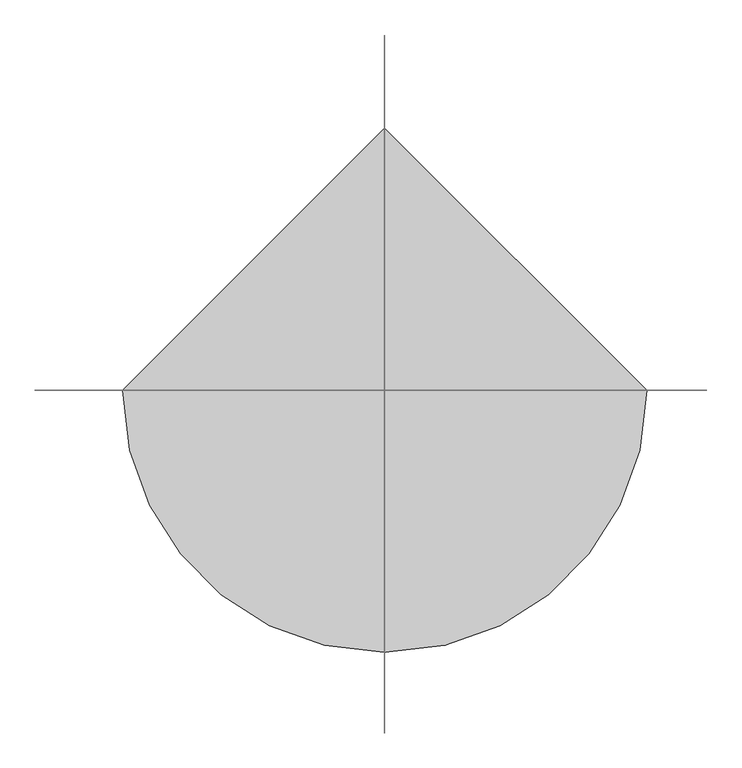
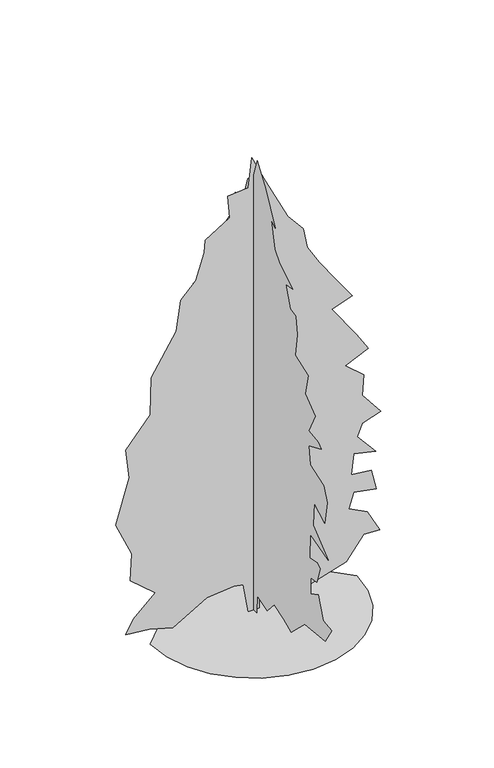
"""IFC4 building model written with IfcOpenShell, lengths in millimetres: geographic element geometry, 木 - 針葉樹 : カナダツガ - 7.6 メートル."""

from ifc_helpers import new_model, si_unit, origin, place, context, project, spatial, triangles, source, transform, mapped, element, save


def geographic_element_bd6ab4d7(model_context):
    return source(origin(), model_context, "Body", "Tessellation", [
        triangles([(-1640.4364975, 0.0, 4.66e-05), (-1597.0634182, -375.923493, 4.66e-05), (-1473.5381092, -721.1506039, 4.66e-05), (-1279.7509552, -1025.7886951, 4.66e-05), (-1025.5920502, -1279.9476002, 4.66e-05), (-720.9539589, -1473.7347542, 4.66e-05), (-375.7268117, -1597.2600632, 4.66e-05), (0.1967428, -1640.6331425, 4.66e-05), (376.1201743, -1597.2600632, 4.66e-05), (721.3472488, -1473.7347542, 4.66e-05), (1025.9853401, -1279.9476002, 4.66e-05), (1280.1442451, -1025.7886951, 4.66e-05), (1473.9313992, -721.1506039, 4.66e-05), (1597.4567081, -375.923493, 4.66e-05), (1640.8297874, 0.0001434, 4.66e-05), (0.1964559, 1640.6331425, 4.66e-05), (-86.8777094, 3.8e-06, 7.6e-06), (-167.301089, -2.14e-05, 482.538715), (-314.7444875, -1.66e-05, 509.3464173), (-747.6020416, 5e-06, 465.0359316), (-1286.1882076, 4.75e-05, 146.6033426), (-1655.1297867, 5.72e-05, 254.6732087), (-2030.4376923, 7.12e-05, 294.8847804), (-1909.8030499, 5.31e-05, 509.3464173), (-1561.3028103, 1.87e-05, 831.0388819), (-1963.4185272, 1.55e-05, 1179.5391214), (-1936.6107159, -1.2e-05, 1621.8687355), (-2191.283979, -3.44e-05, 2184.8305939), (-1976.8223602, -8.7e-05, 2908.6436806), (-2030.4376923, -0.0001134, 3391.1671349), (-1641.7259537, -0.0001575, 3846.9134445), (-1628.3221207, -0.0001949, 4463.4755196), (-1226.2065491, -0.0002508, 5106.8656082), (-1159.1872387, -0.0002833, 5602.8155685), (-917.9178812, -0.0003082, 5844.0903763), (-783.8794058, -0.0003396, 6273.0083817), (-770.4755001, -0.0003522, 6474.0786667), (-383.1925261, -0.0003838, 6719.7357651), (-408.5714275, -0.0004048, 7090.6410324), (-86.8774551, -0.0004204, 7117.4434662), (-33.2635628, -0.0004515, 7599.9925003), (181.1998591, -0.0004337, 7144.2714798), (543.1046765, -0.0004064, 6420.4482193), (784.3739977, -0.0003994, 6125.568544), (851.3932354, -0.0003823, 5790.4593475), (1039.0471882, -0.0003714, 5468.7772385), (1293.7204514, -0.0003609, 5106.8656082), (1561.7975475, -0.0003503, 4731.5524704), (1240.104974, -0.000329, 4610.9406464), (1628.8167126, -0.0003133, 4061.359948), (1816.4706654, -0.0003031, 3753.0790558), (1454.5665928, -0.0002777, 3592.2377106), (1749.4515003, -0.0002754, 3337.5619766), (1722.643689, -0.0002543, 3002.47836), (2017.5284512, -0.0002448, 2627.1655128), (1722.643689, -0.0002263, 2533.3308334), (1642.2205456, -0.0002108, 2332.2730476), (1937.1053078, -0.0002029, 1983.7728081), (1588.6052135, -0.0001925, 2064.1959515), (1548.3935692, -0.0001707, 1729.0995449), (1870.0861427, -0.0001824, 1688.8880459), (1950.5092861, -0.0001659, 1353.7891685), (1588.6052135, -0.0001541, 1420.8084789), (1508.1820702, -0.0001354, 1166.1352158), (1803.0668324, -0.0001395, 1018.6928347), (2004.1246181, -0.0001259, 643.3849291), (1749.4515003, -0.0001156, 656.7888348), (1467.9705711, -8.17e-05, 294.8847804), (905.0086401, -4.67e-05, 120.6346787), (462.6815695, -3.7e-05, 281.480911), (87.3723831, -3.34e-05, 495.9425843), (87.3723831, -3.8e-06, 0.0), (0.1966752, 91.1788822, 5.33e-05), (0.1966901, 158.1984106, 402.1156079), (0.1967037, 426.2759791, 455.7310126), (0.1967059, 546.9106579, 348.5001669), (0.1967247, 1029.4493729, 254.6732087), (0.1967355, 1324.3341351, 174.2503378), (0.1967539, 1726.4497066, 187.6542071), (0.1967742, 2021.3344688, 428.9233103), (0.1967896, 2222.3922546, 643.3849291), (0.1967734, 1860.4883274, 643.3849291), (0.1967696, 1579.0073982, 938.2697639), (0.1967896, 1900.6998264, 1125.9261875), (0.1968028, 2115.1614452, 1246.5608299), (0.1967954, 1780.065184, 1501.2340931), (0.1968128, 1981.1229698, 1782.7150223), (0.1968076, 1793.469017, 1889.9458317), (0.1968323, 2034.7383018, 2359.0807137), (0.1968369, 2048.144751, 2493.1193344), (0.1968321, 1887.2959934, 2573.5347748), (0.1968397, 1753.257518, 3029.2810844), (0.1968549, 1860.4883274, 3377.765918), (0.1968575, 1793.469017, 3565.4349861), (0.1968649, 1726.4497066, 3913.9201103), (0.1968605, 1431.5649445, 4208.8250748), (0.1968787, 1659.4305416, 4476.9023163), (0.1968675, 1257.3148247, 4704.7500366), (0.1968765, 1297.526469, 4946.024263), (0.1968757, 1083.0647776, 5240.9039383), (0.1968871, 1069.6609446, 5643.0195099), (0.196876, 785.5073587, 5696.9034302), (0.1968861, 788.1800154, 6031.7341553), (0.1968861, 493.2952532, 6474.0786667), (0.1968935, 506.6990862, 6701.926387), (0.1968855, 292.2374492, 6755.5574158), (0.1968911, 158.1979019, 7144.2714798), (0.1968887, -2.6482426, 7305.112825), (0.1968933, -96.4753158, 7599.9925003), (0.1968725, -337.7462085, 7264.8833038), (0.1968463, -592.419399, 6768.958342), (0.1968531, -485.1885896, 6835.9652985), (0.1968361, -579.015566, 6407.0467117), (0.1968263, -699.6502447, 6259.6068741), (0.1968028, -1074.9581503, 6031.7341553), (0.1968104, -887.3041975, 6004.9311401), (0.196795, -1007.9388399, 5669.8475235), (0.1967872, -1155.381221, 5629.6185837), (0.196777, -1195.5927927, 5348.1398346), (0.1967678, -1148.7971025, 4967.507254), (0.1967481, -1503.8814606, 4838.7883667), (0.1967413, -1423.4583172, 4490.3035332), (0.1967229, -1691.5354134, 4275.8317406), (0.1967203, -1517.2852936, 3927.3213272), (0.1967077, -1771.9585567, 3887.1173859), (0.1967021, -1852.3815548, 3820.1107201), (0.1967127, -1517.2852936, 3672.6708824), (0.1967021, -1557.4967926, 3377.765918), (0.1966818, -1932.8046982, 3257.1288048), (0.1966708, -2026.6316746, 3029.2810844), (0.1966622, -1959.6125095, 2640.5667297), (0.19668, -1663.0961609, 2794.4157692), (0.1966698, -1637.9174652, 2412.696191), (0.1966412, -2053.4393406, 2077.5997845), (0.1966674, -1557.4967926, 2211.6382599), (0.196656, -1544.0929596, 1809.5226883), (0.1966482, -1745.1507454, 1849.7343327), (0.196643, -1825.5738888, 1796.1188553), (0.1966388, -1731.7469124, 1514.6379261), (0.1966452, -1570.9006256, 1487.8302601), (0.1966372, -1570.9006256, 1219.7531639), (0.1966314, -1771.9585567, 1326.9839733), (0.1966144, -1919.4008652, 978.481263), (0.1966035, -2147.266317, 951.673597), (0.1966029, -1973.0163425, 670.1926678), (0.1966264, -1410.0544842, 616.5772631), (0.1966324, -1034.7465786, 254.6732087), (0.1966442, -833.6887928, 348.5001669), (0.1966586, -565.6116966, 428.9233103), (0.1966606, -377.9577438, 214.4619095), (0.1966756, -96.4750615, 294.8847804), (0.1966674, -83.0712103, 4.81e-05)], [[15, 16, 1], [14, 15, 1], [14, 1, 2], [13, 14, 2], [13, 2, 3], [13, 3, 4], [12, 13, 4], [11, 12, 4], [11, 4, 5], [11, 5, 6], [11, 6, 7], [11, 7, 8], [11, 8, 9], [11, 9, 10], [40, 41, 42], [57, 58, 59], [65, 66, 67], [61, 62, 63], [60, 61, 63], [22, 23, 24], [54, 55, 56], [47, 48, 49], [50, 51, 52], [22, 24, 25], [71, 72, 17], [71, 17, 18], [38, 39, 40], [21, 22, 25], [20, 21, 25], [64, 65, 67], [40, 42, 43], [38, 40, 43], [64, 67, 68], [64, 68, 69], [64, 69, 70], [64, 70, 71], [49, 50, 52], [36, 37, 38], [36, 38, 43], [35, 36, 43], [35, 43, 44], [35, 44, 45], [35, 45, 46], [34, 35, 46], [33, 34, 46], [33, 46, 47], [33, 47, 49], [32, 33, 49], [31, 32, 49], [31, 49, 52], [30, 31, 52], [29, 30, 52], [28, 29, 52], [27, 28, 52], [27, 52, 53], [27, 53, 54], [27, 54, 56], [27, 56, 57], [27, 57, 59], [27, 59, 60], [26, 27, 60], [25, 26, 60], [20, 25, 60], [19, 20, 60], [18, 19, 60], [71, 18, 60], [64, 71, 60], [64, 60, 63], [133, 134, 135], [110, 111, 112], [114, 115, 116], [80, 81, 82], [108, 109, 110], [125, 126, 127], [124, 125, 127], [143, 144, 145], [84, 85, 86], [130, 131, 132], [96, 97, 98], [86, 87, 88], [141, 142, 143], [143, 145, 146], [141, 143, 146], [79, 80, 82], [151, 152, 73], [151, 73, 74], [120, 121, 122], [129, 130, 132], [128, 129, 132], [104, 105, 106], [122, 123, 124], [83, 84, 86], [100, 101, 102], [137, 138, 139], [136, 137, 139], [136, 139, 140], [78, 79, 82], [78, 82, 83], [77, 78, 83], [89, 90, 91], [146, 147, 148], [117, 118, 119], [149, 150, 151], [108, 110, 112], [107, 108, 112], [106, 107, 112], [106, 112, 113], [104, 106, 113], [76, 77, 83], [75, 76, 83], [88, 89, 91], [103, 104, 113], [102, 103, 113], [102, 113, 114], [102, 114, 116], [102, 116, 117], [102, 117, 119], [102, 119, 120], [100, 102, 120], [99, 100, 120], [98, 99, 120], [98, 120, 122], [98, 122, 124], [96, 98, 124], [96, 124, 127], [96, 127, 128], [96, 128, 132], [95, 96, 132], [94, 95, 132], [93, 94, 132], [92, 93, 132], [92, 132, 133], [92, 133, 135], [91, 92, 135], [88, 91, 135], [88, 135, 136], [86, 88, 136], [83, 86, 136], [75, 83, 136], [74, 75, 136], [74, 136, 140], [151, 74, 140], [149, 151, 140], [149, 140, 141], [149, 141, 146], [149, 146, 148]], closed=False),
    ])


if __name__ == "__main__":
    model = new_model("IFC4")
    model_context = context("Model", 3, world=origin())
    ifc_project = project(units=[si_unit("LENGTHUNIT", "METRE", prefix="MILLI")], contexts=[model_context])
    site = spatial("IfcSite", under=ifc_project)
    building = spatial("IfcBuilding", under=site)
    placement = place(None, origin())
    geographic_element_shape = geographic_element_bd6ab4d7(model_context)
    element("IfcGeographicElement", 1, ObjectType="木 - 針葉樹 : カナダツガ - 7.6 メートル", at=placement, inside=building, context=model_context, shape_type="MappedRepresentation", body=[
        mapped(geographic_element_shape, transform((0.0, 0.0, 0.0), x_axis=(1.0, 0.0, 0.0), y_axis=(0.0, 1.0, 0.0), z_axis=(0.0, 0.0, 1.0))),
    ])
    save(model, "model.ifc")
